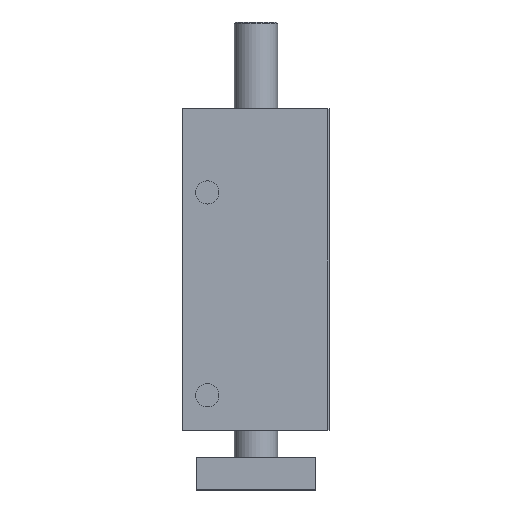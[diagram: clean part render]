
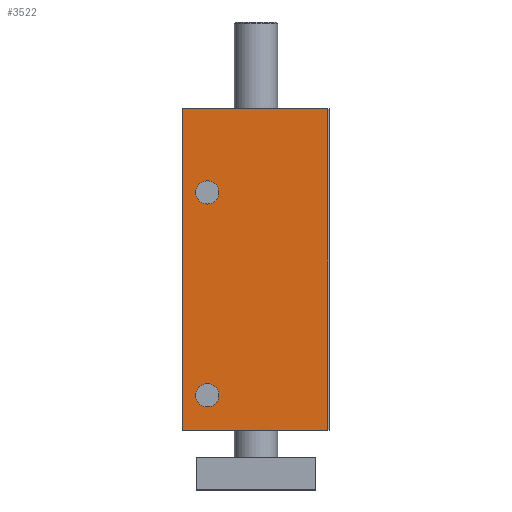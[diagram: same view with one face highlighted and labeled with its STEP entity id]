
A CAD part, front view. The second image highlights one B-rep face of the part: STEP entity #3522.
In plain terms, the highlighted planar face has unit normal (0, -1, 0).
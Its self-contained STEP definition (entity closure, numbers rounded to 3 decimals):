
#255=CARTESIAN_POINT('',(-27.0,-60.0,0.0));
#256=VERTEX_POINT('',#255);
#263=CARTESIAN_POINT('',(-27.0,-60.0,119.0));
#264=VERTEX_POINT('',#263);
#265=CARTESIAN_POINT('',(-27.0,-60.0,0.0));
#266=DIRECTION('',(0.0,0.0,1.0));
#267=VECTOR('',#266,119.0);
#268=LINE('',#265,#267);
#269=EDGE_CURVE('',#256,#264,#268,.T.);
#971=CARTESIAN_POINT('',(26.5,-60.0,0.0));
#972=VERTEX_POINT('',#971);
#979=CARTESIAN_POINT('',(-27.0,-60.0,0.0));
#980=DIRECTION('',(1.0,0.0,0.0));
#981=VECTOR('',#980,53.5);
#982=LINE('',#979,#981);
#983=EDGE_CURVE('',#256,#972,#982,.T.);
#2359=CARTESIAN_POINT('',(-13.717,-60.0,88.0));
#2360=VERTEX_POINT('',#2359);
#2361=CARTESIAN_POINT('',(-18.0,-60.0,88.0));
#2362=DIRECTION('',(0.0,1.0,0.0));
#2363=DIRECTION('',(1.0,0.0,0.0));
#2364=AXIS2_PLACEMENT_3D('',#2361,#2362,#2363);
#2365=CIRCLE('',#2364,4.283);
#2366=EDGE_CURVE('',#2360,#2360,#2365,.T.);
#2396=CARTESIAN_POINT('',(-13.717,-60.0,13.));
#2397=VERTEX_POINT('',#2396);
#2398=CARTESIAN_POINT('',(-18.0,-60.0,13.));
#2399=DIRECTION('',(0.0,1.0,0.0));
#2400=DIRECTION('',(1.0,0.0,0.0));
#2401=AXIS2_PLACEMENT_3D('',#2398,#2399,#2400);
#2402=CIRCLE('',#2401,4.283);
#2403=EDGE_CURVE('',#2397,#2397,#2402,.T.);
#3481=CARTESIAN_POINT('',(26.5,-60.0,119.0));
#3482=VERTEX_POINT('',#3481);
#3489=CARTESIAN_POINT('',(26.5,-60.0,0.0));
#3490=DIRECTION('',(0.0,0.0,1.0));
#3491=VECTOR('',#3490,119.0);
#3492=LINE('',#3489,#3491);
#3493=EDGE_CURVE('',#972,#3482,#3492,.T.);
#3500=CARTESIAN_POINT('',(26.5,-60.0,0.0));
#3501=DIRECTION('',(0.0,-1.0,0.0));
#3502=DIRECTION('',(0.0,0.0,-1.0));
#3503=AXIS2_PLACEMENT_3D('',#3500,#3501,#3502);
#3504=PLANE('',#3503);
#3505=CARTESIAN_POINT('',(26.5,-60.0,119.0));
#3506=DIRECTION('',(-1.0,0.0,0.0));
#3507=VECTOR('',#3506,53.5);
#3508=LINE('',#3505,#3507);
#3509=EDGE_CURVE('',#3482,#264,#3508,.T.);
#3510=ORIENTED_EDGE('',*,*,#3509,.T.);
#3511=ORIENTED_EDGE('',*,*,#269,.F.);
#3512=ORIENTED_EDGE('',*,*,#983,.T.);
#3513=ORIENTED_EDGE('',*,*,#3493,.T.);
#3514=EDGE_LOOP('',(#3510,#3511,#3512,#3513));
#3515=FACE_OUTER_BOUND('',#3514,.T.);
#3516=ORIENTED_EDGE('',*,*,#2366,.T.);
#3517=EDGE_LOOP('',(#3516));
#3518=FACE_BOUND('',#3517,.T.);
#3519=ORIENTED_EDGE('',*,*,#2403,.T.);
#3520=EDGE_LOOP('',(#3519));
#3521=FACE_BOUND('',#3520,.T.);
#3522=ADVANCED_FACE('',(#3515,#3518,#3521),#3504,.T.);
